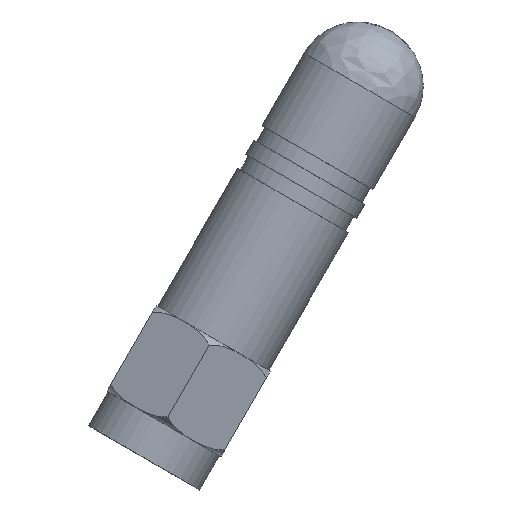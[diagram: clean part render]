
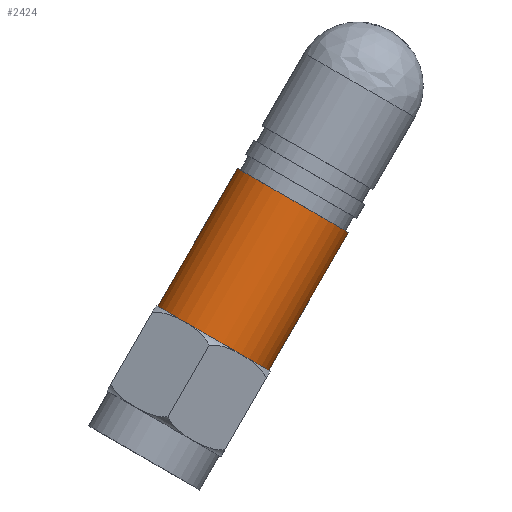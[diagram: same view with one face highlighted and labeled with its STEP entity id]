
A CAD part, top view. The second image highlights one B-rep face of the part: STEP entity #2424.
In plain terms, the highlighted cylindrical face has radius 3.9 mm (diameter 7.8 mm), a partial arc.
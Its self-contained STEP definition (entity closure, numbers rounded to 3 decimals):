
#176 = ORIENTED_EDGE ( 'NONE', *, *, #1327, .F. ) ;
#270 = VECTOR ( 'NONE', #3352, 1000. ) ;
#331 = DIRECTION ( 'NONE',  ( -0.866, 0.5, 0. ) ) ;
#337 = DIRECTION ( 'NONE',  ( 0.5, 0.866, 0. ) ) ;
#396 = ORIENTED_EDGE ( 'NONE', *, *, #806, .T. ) ;
#447 = AXIS2_PLACEMENT_3D ( 'NONE', #686, #1680, #331 ) ;
#628 = VERTEX_POINT ( 'NONE', #816 ) ;
#636 = DIRECTION ( 'NONE',  ( 0.5, 0.866, 0. ) ) ;
#686 = CARTESIAN_POINT ( 'NONE',  ( -72.767, 115.802, 4.425 ) ) ;
#806 = EDGE_CURVE ( 'NONE', #3980, #3446, #1983, .T. ) ;
#816 = CARTESIAN_POINT ( 'NONE',  ( -71.295, 126.151, 4.425 ) ) ;
#843 = CYLINDRICAL_SURFACE ( 'NONE', #3695, 3.9 ) ;
#883 = VERTEX_POINT ( 'NONE', #2453 ) ;
#959 = CIRCLE ( 'NONE', #447, 3.9 ) ;
#960 = EDGE_CURVE ( 'NONE', #883, #3980, #959, .T. ) ;
#1140 = CARTESIAN_POINT ( 'NONE',  ( -67.918, 124.201, 4.425 ) ) ;
#1302 = DIRECTION ( 'NONE',  ( -0.866, 0.5, 0. ) ) ;
#1327 = EDGE_CURVE ( 'NONE', #883, #628, #3636, .T. ) ;
#1354 = ORIENTED_EDGE ( 'NONE', *, *, #960, .T. ) ;
#1467 = DIRECTION ( 'NONE',  ( -0.5, -0.866, 0. ) ) ;
#1629 = CARTESIAN_POINT ( 'NONE',  ( -72.792, 115.759, 4.425 ) ) ;
#1680 = DIRECTION ( 'NONE',  ( 0.5, 0.866, 0. ) ) ;
#1693 = ORIENTED_EDGE ( 'NONE', *, *, #3276, .T. ) ;
#1848 = CIRCLE ( 'NONE', #3230, 3.9 ) ;
#1902 = CARTESIAN_POINT ( 'NONE',  ( -69.389, 113.852, 4.425 ) ) ;
#1910 = CARTESIAN_POINT ( 'NONE',  ( -76.169, 117.709, 4.425 ) ) ;
#1983 = LINE ( 'NONE', #2648, #270 ) ;
#2341 = VECTOR ( 'NONE', #337, 1000. ) ;
#2424 = ADVANCED_FACE ( 'NONE', ( #2690 ), #843, .T. ) ;
#2453 = CARTESIAN_POINT ( 'NONE',  ( -76.144, 117.752, 4.425 ) ) ;
#2504 = CARTESIAN_POINT ( 'NONE',  ( -64.54, 122.251, 4.425 ) ) ;
#2648 = CARTESIAN_POINT ( 'NONE',  ( -69.414, 113.809, 4.425 ) ) ;
#2690 = FACE_OUTER_BOUND ( 'NONE', #4188, .T. ) ;
#3230 = AXIS2_PLACEMENT_3D ( 'NONE', #1140, #1467, #3759 ) ;
#3276 = EDGE_CURVE ( 'NONE', #3446, #628, #1848, .T. ) ;
#3352 = DIRECTION ( 'NONE',  ( 0.5, 0.866, 0. ) ) ;
#3446 = VERTEX_POINT ( 'NONE', #2504 ) ;
#3636 = LINE ( 'NONE', #1910, #2341 ) ;
#3695 = AXIS2_PLACEMENT_3D ( 'NONE', #1629, #636, #1302 ) ;
#3759 = DIRECTION ( 'NONE',  ( -0.866, 0.5, 0. ) ) ;
#3980 = VERTEX_POINT ( 'NONE', #1902 ) ;
#4188 = EDGE_LOOP ( 'NONE', ( #1354, #396, #1693, #176 ) ) ;
